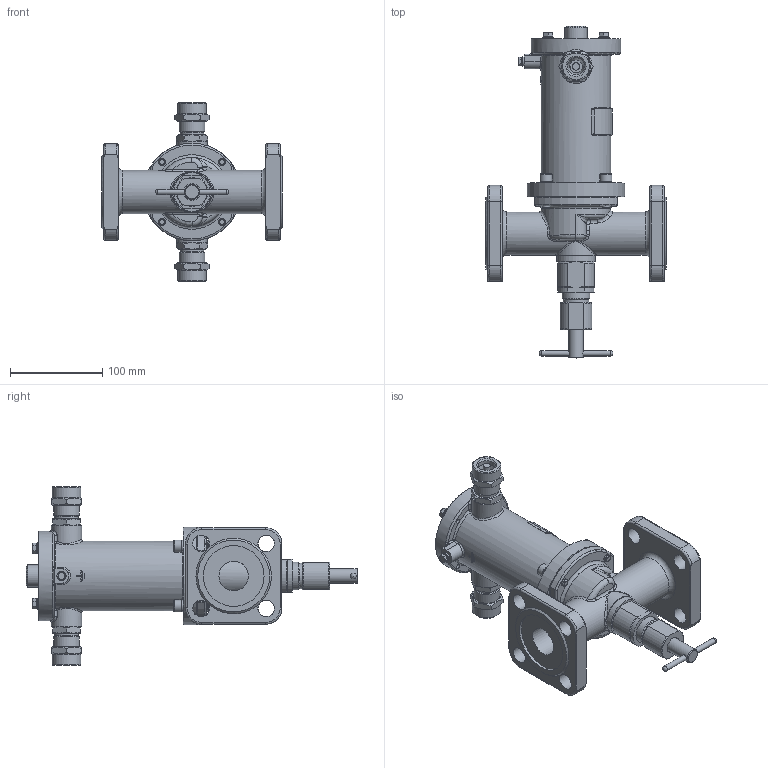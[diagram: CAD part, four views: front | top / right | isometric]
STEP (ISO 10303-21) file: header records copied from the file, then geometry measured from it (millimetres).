
FILE_DESCRIPTION(('STEP AP203'), '1');
FILE_NAME('ÑÅÍÑ DN32PN25-ÑÂ.stp', '2018-09-19T08:34:38', ('Îðëîâ Å.Â.'), ('ÎÎÎ ÍÏÏ Ñåíñîð'), 'ASCON STEP Converter 1.3', 'Kompas 3D', '');
FILE_SCHEMA(('CONFIG_CONTROL_DESIGN','SUPPORT_RESOURCE_SCHEMA'));
Length unit declared in the file: millimetre
Products named in the file (1): 9
Bounding box: 196 x 360.5 x 194 mm (x, y, z)
Volume: 1101483.4 mm3; surface area: 284528.9 mm2
Topology: 3 solids, 18 shells, 1957 faces, 5193 edges, 3365 vertices
Faces by surface type: cylinder 999, plane 714, cone 124, torus 52, bspline 50, extrusion 16, sphere 2
Full cylindrical faces by diameter (mm): 3.5 x2, 4.134 x1, 4.917 x4, 5 x1, 6 x13, 6.2 x1, 6.5 x4, 8 x12, 9 x4, 10 x1, 12 x4, 13 x6, 16 x3, 17 x2, 18 x9, 18.632 x2, 19.9 x1, 20 x2, 21 x1, 22 x2, 22.376 x2, 23 x1, 23.5 x2, 24 x3, 24.5 x2, 26 x4, 26.376 x2, 27.8 x1, 28 x3, 28.5 x2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
Entity records: 75450 total; most frequent: CARTESIAN_POINT 25895, DIRECTION 10717, ORIENTED_EDGE 10312, EDGE_CURVE 5156, AXIS2_PLACEMENT_3D 4114, VERTEX_POINT 3357, VECTOR 2489, LINE 2473
